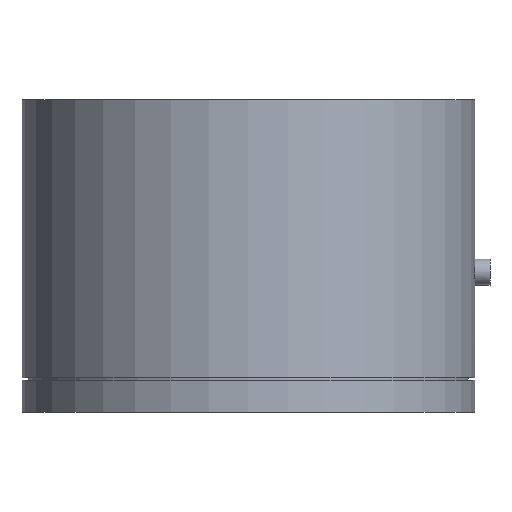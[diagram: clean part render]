
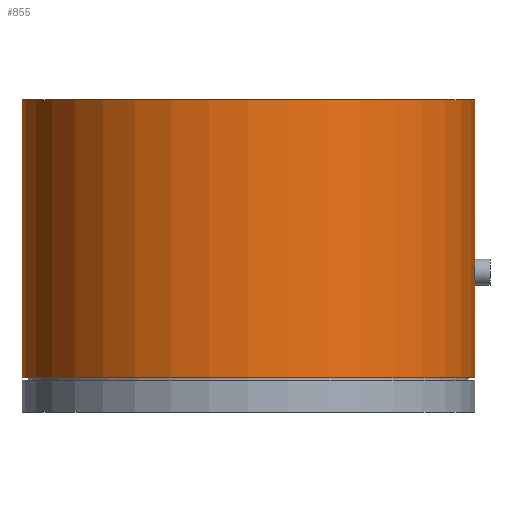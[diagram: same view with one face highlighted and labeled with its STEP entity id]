
A CAD part, front view. The second image highlights one B-rep face of the part: STEP entity #855.
In plain terms, the highlighted cylindrical face has radius 52.5 mm (diameter 105 mm), a partial arc.
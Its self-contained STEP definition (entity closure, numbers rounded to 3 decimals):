
#10 = CARTESIAN_POINT ( 'NONE',  ( 52.431, -2.697, 33.829 ) ) ;
#36 = CARTESIAN_POINT ( 'NONE',  ( 52.5, 0., 35.5 ) ) ;
#65 = CARTESIAN_POINT ( 'NONE',  ( 52.499, -0.395, 29.52 ) ) ;
#105 = CARTESIAN_POINT ( 'NONE',  ( 52.414, -3., 32.697 ) ) ;
#123 = CARTESIAN_POINT ( 'NONE',  ( 52.495, -0.777, 35.404 ) ) ;
#141 = LINE ( 'NONE', #731, #1257 ) ;
#147 = EDGE_LOOP ( 'NONE', ( #184, #1033, #550, #1596, #968, #641 ) ) ;
#173 = CARTESIAN_POINT ( 'NONE',  ( 52.446, -2.384, 34.332 ) ) ;
#184 = ORIENTED_EDGE ( 'NONE', *, *, #1314, .F. ) ;
#230 = VECTOR ( 'NONE', #1168, 1000. ) ;
#232 = CARTESIAN_POINT ( 'NONE',  ( 52.452, -2.26, 34.483 ) ) ;
#251 = CYLINDRICAL_SURFACE ( 'NONE', #1464, 52.5 ) ;
#268 = VERTEX_POINT ( 'NONE', #337 ) ;
#273 = CARTESIAN_POINT ( 'NONE',  ( 52.415, -2.981, 32.891 ) ) ;
#281 = B_SPLINE_CURVE_WITH_KNOTS ( 'NONE', 3,
 ( #849, #1067, #506, #123, #904, #797, #1429, #1243, #470, #232, #173, #1040, #10, #1523, #1285, #273, #105, #509, #1013, #1571, #1438, #696, #555, #1187, #611, #809, #1410, #402, #995, #324, #317, #65, #439, #312 ),
 .UNSPECIFIED., .F., .F.,
 ( 4, 2, 2, 2, 2, 2, 2, 2, 2, 2, 2, 2, 2, 2, 2, 2, 4 ),
 ( 0., 0.001, 0.001, 0.002, 0.002, 0.003, 0.004, 0.004, 0.005, 0.005, 0.006, 0.006, 0.007, 0.008, 0.008, 0.009, 0.009 ),
 .UNSPECIFIED. ) ;
#284 = CARTESIAN_POINT ( 'NONE',  ( 52.5, 0., 72.5 ) ) ;
#312 = CARTESIAN_POINT ( 'NONE',  ( 52.5, 0., 29.5 ) ) ;
#317 = CARTESIAN_POINT ( 'NONE',  ( 52.495, -0.779, 29.596 ) ) ;
#319 = AXIS2_PLACEMENT_3D ( 'NONE', #808, #1092, #980 ) ;
#324 = CARTESIAN_POINT ( 'NONE',  ( 52.491, -0.966, 29.653 ) ) ;
#337 = CARTESIAN_POINT ( 'NONE',  ( 52.5, 0., 8. ) ) ;
#402 = CARTESIAN_POINT ( 'NONE',  ( 52.479, -1.505, 29.898 ) ) ;
#439 = CARTESIAN_POINT ( 'NONE',  ( 52.5, -0.196, 29.5 ) ) ;
#470 = CARTESIAN_POINT ( 'NONE',  ( 52.463, -1.983, 34.759 ) ) ;
#475 = DIRECTION ( 'NONE',  ( 0., 0., -1. ) ) ;
#480 = VECTOR ( 'NONE', #945, 1000. ) ;
#499 = CARTESIAN_POINT ( 'NONE',  ( -52.5, 0., 8. ) ) ;
#506 = CARTESIAN_POINT ( 'NONE',  ( 52.499, -0.393, 35.481 ) ) ;
#509 = CARTESIAN_POINT ( 'NONE',  ( 52.414, -3., 32.305 ) ) ;
#535 = CARTESIAN_POINT ( 'NONE',  ( -52.5, 0., 72.5 ) ) ;
#550 = ORIENTED_EDGE ( 'NONE', *, *, #584, .T. ) ;
#555 = CARTESIAN_POINT ( 'NONE',  ( 52.436, -2.603, 30.996 ) ) ;
#557 = EDGE_CURVE ( 'NONE', #1182, #268, #141, .T. ) ;
#565 = CIRCLE ( 'NONE', #570, 52.5 ) ;
#570 = AXIS2_PLACEMENT_3D ( 'NONE', #1158, #1089, #921 ) ;
#572 = EDGE_CURVE ( 'NONE', #1405, #672, #565, .T. ) ;
#584 = EDGE_CURVE ( 'NONE', #1405, #935, #1535, .T. ) ;
#592 = EDGE_CURVE ( 'NONE', #935, #268, #1225, .T. ) ;
#599 = DIRECTION ( 'NONE',  ( -1., 0., 0. ) ) ;
#611 = CARTESIAN_POINT ( 'NONE',  ( 52.451, -2.262, 30.519 ) ) ;
#620 = CARTESIAN_POINT ( 'NONE',  ( 52.5, 0., 72.5 ) ) ;
#641 = ORIENTED_EDGE ( 'NONE', *, *, #1065, .F. ) ;
#672 = VERTEX_POINT ( 'NONE', #284 ) ;
#696 = CARTESIAN_POINT ( 'NONE',  ( 52.431, -2.697, 31.171 ) ) ;
#731 = CARTESIAN_POINT ( 'NONE',  ( 52.5, 0., 72.5 ) ) ;
#797 = CARTESIAN_POINT ( 'NONE',  ( 52.483, -1.331, 35.196 ) ) ;
#808 = CARTESIAN_POINT ( 'NONE',  ( 0., 0., 8. ) ) ;
#809 = CARTESIAN_POINT ( 'NONE',  ( 52.463, -1.982, 30.239 ) ) ;
#849 = CARTESIAN_POINT ( 'NONE',  ( 52.5, 0., 35.5 ) ) ;
#855 = ADVANCED_FACE ( 'NONE', ( #1233 ), #251, .T. ) ;
#887 = VERTEX_POINT ( 'NONE', #36 ) ;
#904 = CARTESIAN_POINT ( 'NONE',  ( 52.491, -0.967, 35.347 ) ) ;
#921 = DIRECTION ( 'NONE',  ( 1., 0., 0. ) ) ;
#935 = VERTEX_POINT ( 'NONE', #499 ) ;
#945 = DIRECTION ( 'NONE',  ( 0., 0., -1. ) ) ;
#968 = ORIENTED_EDGE ( 'NONE', *, *, #557, .F. ) ;
#980 = DIRECTION ( 'NONE',  ( 1., 0., 0. ) ) ;
#995 = CARTESIAN_POINT ( 'NONE',  ( 52.483, -1.33, 29.804 ) ) ;
#1000 = CARTESIAN_POINT ( 'NONE',  ( 52.5, 0., 29.5 ) ) ;
#1013 = CARTESIAN_POINT ( 'NONE',  ( 52.415, -2.981, 32.107 ) ) ;
#1033 = ORIENTED_EDGE ( 'NONE', *, *, #572, .F. ) ;
#1040 = CARTESIAN_POINT ( 'NONE',  ( 52.436, -2.604, 34.004 ) ) ;
#1065 = EDGE_CURVE ( 'NONE', #887, #1182, #281, .T. ) ;
#1067 = CARTESIAN_POINT ( 'NONE',  ( 52.5, -0.198, 35.5 ) ) ;
#1089 = DIRECTION ( 'NONE',  ( 0., 0., 1. ) ) ;
#1092 = DIRECTION ( 'NONE',  ( 0., 0., 1. ) ) ;
#1158 = CARTESIAN_POINT ( 'NONE',  ( 0., 0., 72.5 ) ) ;
#1168 = DIRECTION ( 'NONE',  ( 0., 0., -1. ) ) ;
#1182 = VERTEX_POINT ( 'NONE', #1000 ) ;
#1187 = CARTESIAN_POINT ( 'NONE',  ( 52.446, -2.386, 30.671 ) ) ;
#1225 = CIRCLE ( 'NONE', #319, 52.5 ) ;
#1233 = FACE_OUTER_BOUND ( 'NONE', #147, .T. ) ;
#1243 = CARTESIAN_POINT ( 'NONE',  ( 52.468, -1.829, 34.886 ) ) ;
#1257 = VECTOR ( 'NONE', #475, 1000. ) ;
#1274 = CARTESIAN_POINT ( 'NONE',  ( -52.5, 0., 72.5 ) ) ;
#1285 = CARTESIAN_POINT ( 'NONE',  ( 52.42, -2.904, 33.279 ) ) ;
#1314 = EDGE_CURVE ( 'NONE', #672, #887, #1538, .T. ) ;
#1331 = CARTESIAN_POINT ( 'NONE',  ( 0., 0., 72.5 ) ) ;
#1405 = VERTEX_POINT ( 'NONE', #1274 ) ;
#1410 = CARTESIAN_POINT ( 'NONE',  ( 52.468, -1.83, 30.115 ) ) ;
#1429 = CARTESIAN_POINT ( 'NONE',  ( 52.479, -1.503, 35.104 ) ) ;
#1438 = CARTESIAN_POINT ( 'NONE',  ( 52.423, -2.847, 31.535 ) ) ;
#1464 = AXIS2_PLACEMENT_3D ( 'NONE', #1331, #1481, #599 ) ;
#1481 = DIRECTION ( 'NONE',  ( 0., 0., -1. ) ) ;
#1523 = CARTESIAN_POINT ( 'NONE',  ( 52.423, -2.846, 33.468 ) ) ;
#1535 = LINE ( 'NONE', #535, #480 ) ;
#1538 = LINE ( 'NONE', #620, #230 ) ;
#1571 = CARTESIAN_POINT ( 'NONE',  ( 52.42, -2.904, 31.722 ) ) ;
#1596 = ORIENTED_EDGE ( 'NONE', *, *, #592, .T. ) ;
